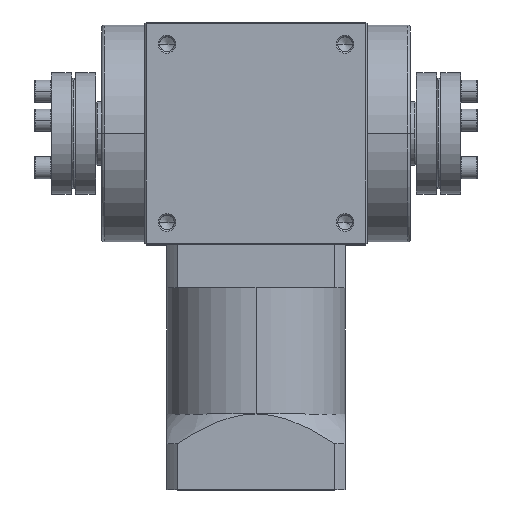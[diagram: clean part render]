
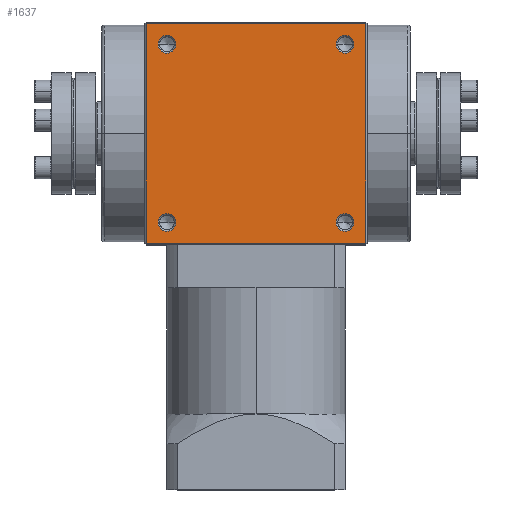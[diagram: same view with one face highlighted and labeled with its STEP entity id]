
A CAD part, top view. The second image highlights one B-rep face of the part: STEP entity #1637.
In plain terms, the highlighted planar face has unit normal (0, 0, 1).
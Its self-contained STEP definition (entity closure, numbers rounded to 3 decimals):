
#118 = CARTESIAN_POINT ( 'NONE',  ( -27., -30., 37.5 ) ) ;
#128 = VERTEX_POINT ( 'NONE', #3857 ) ;
#163 = DIRECTION ( 'NONE',  ( 0., 0., -1. ) ) ;
#191 = DIRECTION ( 'NONE',  ( -1., 0., 0. ) ) ;
#306 = FACE_BOUND ( 'NONE', #17073, .T. ) ;
#957 = EDGE_CURVE ( 'NONE', #17308, #10768, #7105, .T. ) ;
#998 = DIRECTION ( 'NONE',  ( 0., 0., -1. ) ) ;
#1101 = VECTOR ( 'NONE', #8029, 1000. ) ;
#1414 = EDGE_LOOP ( 'NONE', ( #13661, #3787, #15507, #18024 ) ) ;
#1416 = ORIENTED_EDGE ( 'NONE', *, *, #15583, .T. ) ;
#1529 = DIRECTION ( 'NONE',  ( 0., 0., -1. ) ) ;
#1637 = ADVANCED_FACE ( 'NONE', ( #3077, #306, #20614, #14119, #18394 ), #8315, .F. ) ;
#1813 = DIRECTION ( 'NONE',  ( 0., 0., -1. ) ) ;
#1861 = AXIS2_PLACEMENT_3D ( 'NONE', #12674, #3087, #12611 ) ;
#2168 = VECTOR ( 'NONE', #4085, 1000. ) ;
#2348 = VECTOR ( 'NONE', #10569, 1000. ) ;
#2482 = CARTESIAN_POINT ( 'NONE',  ( -37., 37., 37.5 ) ) ;
#2584 = CIRCLE ( 'NONE', #6284, 3. ) ;
#2636 = CARTESIAN_POINT ( 'NONE',  ( 37., 0., 37.5 ) ) ;
#2827 = ORIENTED_EDGE ( 'NONE', *, *, #7245, .T. ) ;
#2835 = LINE ( 'NONE', #20107, #2348 ) ;
#3054 = EDGE_CURVE ( 'NONE', #17659, #11904, #19574, .T. ) ;
#3077 = FACE_BOUND ( 'NONE', #8980, .T. ) ;
#3087 = DIRECTION ( 'NONE',  ( 0., 0., -1. ) ) ;
#3242 = EDGE_CURVE ( 'NONE', #9377, #13031, #12790, .T. ) ;
#3312 = AXIS2_PLACEMENT_3D ( 'NONE', #7941, #19014, #9676 ) ;
#3351 = EDGE_CURVE ( 'NONE', #128, #9398, #20051, .T. ) ;
#3379 = VERTEX_POINT ( 'NONE', #14391 ) ;
#3787 = ORIENTED_EDGE ( 'NONE', *, *, #17470, .T. ) ;
#3841 = CARTESIAN_POINT ( 'NONE',  ( 30., 30., 37.5 ) ) ;
#3857 = CARTESIAN_POINT ( 'NONE',  ( -27., 30., 37.5 ) ) ;
#4085 = DIRECTION ( 'NONE',  ( 0., -1., 0. ) ) ;
#4177 = LINE ( 'NONE', #13688, #2168 ) ;
#4505 = DIRECTION ( 'NONE',  ( 0., 0., -1. ) ) ;
#4882 = DIRECTION ( 'NONE',  ( 0., 0., -1. ) ) ;
#5383 = DIRECTION ( 'NONE',  ( 0., 0., -1. ) ) ;
#5793 = ORIENTED_EDGE ( 'NONE', *, *, #8344, .T. ) ;
#5945 = LINE ( 'NONE', #13663, #17748 ) ;
#6284 = AXIS2_PLACEMENT_3D ( 'NONE', #18844, #4505, #9245 ) ;
#6369 = CARTESIAN_POINT ( 'NONE',  ( -33., -30., 37.5 ) ) ;
#6424 = CARTESIAN_POINT ( 'NONE',  ( -37., -37., 37.5 ) ) ;
#6517 = DIRECTION ( 'NONE',  ( -1., 0., 0. ) ) ;
#6585 = ORIENTED_EDGE ( 'NONE', *, *, #3054, .T. ) ;
#6862 = DIRECTION ( 'NONE',  ( -1., 0., 0. ) ) ;
#7105 = LINE ( 'NONE', #2636, #1101 ) ;
#7245 = EDGE_CURVE ( 'NONE', #3379, #14685, #10543, .T. ) ;
#7502 = ORIENTED_EDGE ( 'NONE', *, *, #11675, .T. ) ;
#7941 = CARTESIAN_POINT ( 'NONE',  ( -30., 30., 37.5 ) ) ;
#7958 = CARTESIAN_POINT ( 'NONE',  ( 30., -30., 37.5 ) ) ;
#7981 = CIRCLE ( 'NONE', #12186, 3. ) ;
#8029 = DIRECTION ( 'NONE',  ( 0., 1., 0. ) ) ;
#8315 = PLANE ( 'NONE',  #10501 ) ;
#8344 = EDGE_CURVE ( 'NONE', #13031, #9377, #15049, .T. ) ;
#8455 = CARTESIAN_POINT ( 'NONE',  ( -33., 30., 37.5 ) ) ;
#8980 = EDGE_LOOP ( 'NONE', ( #2827, #11216 ) ) ;
#9245 = DIRECTION ( 'NONE',  ( -1., 0., 0. ) ) ;
#9377 = VERTEX_POINT ( 'NONE', #10271 ) ;
#9398 = VERTEX_POINT ( 'NONE', #8455 ) ;
#9676 = DIRECTION ( 'NONE',  ( -1., 0., 0. ) ) ;
#10271 = CARTESIAN_POINT ( 'NONE',  ( 33., 30., 37.5 ) ) ;
#10500 = DIRECTION ( 'NONE',  ( -1., 0., 0. ) ) ;
#10501 = AXIS2_PLACEMENT_3D ( 'NONE', #11258, #1813, #191 ) ;
#10539 = CARTESIAN_POINT ( 'NONE',  ( 37., -37., 37.5 ) ) ;
#10543 = CIRCLE ( 'NONE', #19293, 3. ) ;
#10569 = DIRECTION ( 'NONE',  ( -1., 0., 0. ) ) ;
#10768 = VERTEX_POINT ( 'NONE', #13906 ) ;
#10837 = ORIENTED_EDGE ( 'NONE', *, *, #3351, .T. ) ;
#11182 = VERTEX_POINT ( 'NONE', #2482 ) ;
#11216 = ORIENTED_EDGE ( 'NONE', *, *, #16921, .T. ) ;
#11258 = CARTESIAN_POINT ( 'NONE',  ( 0., 0., 37.5 ) ) ;
#11675 = EDGE_CURVE ( 'NONE', #11904, #17659, #20297, .T. ) ;
#11904 = VERTEX_POINT ( 'NONE', #118 ) ;
#12002 = CARTESIAN_POINT ( 'NONE',  ( 27., 30., 37.5 ) ) ;
#12186 = AXIS2_PLACEMENT_3D ( 'NONE', #7958, #1529, #12816 ) ;
#12611 = DIRECTION ( 'NONE',  ( -1., 0., 0. ) ) ;
#12665 = VERTEX_POINT ( 'NONE', #6424 ) ;
#12674 = CARTESIAN_POINT ( 'NONE',  ( 30., 30., 37.5 ) ) ;
#12790 = CIRCLE ( 'NONE', #14847, 3. ) ;
#12816 = DIRECTION ( 'NONE',  ( -1., 0., 0. ) ) ;
#12911 = AXIS2_PLACEMENT_3D ( 'NONE', #18634, #998, #10500 ) ;
#13031 = VERTEX_POINT ( 'NONE', #12002 ) ;
#13661 = ORIENTED_EDGE ( 'NONE', *, *, #13813, .T. ) ;
#13663 = CARTESIAN_POINT ( 'NONE',  ( 0., -37., 37.5 ) ) ;
#13688 = CARTESIAN_POINT ( 'NONE',  ( -37., 0., 37.5 ) ) ;
#13813 = EDGE_CURVE ( 'NONE', #11182, #12665, #4177, .T. ) ;
#13906 = CARTESIAN_POINT ( 'NONE',  ( 37., 37., 37.5 ) ) ;
#14119 = FACE_BOUND ( 'NONE', #16026, .T. ) ;
#14391 = CARTESIAN_POINT ( 'NONE',  ( 33., -30., 37.5 ) ) ;
#14685 = VERTEX_POINT ( 'NONE', #14705 ) ;
#14705 = CARTESIAN_POINT ( 'NONE',  ( 27., -30., 37.5 ) ) ;
#14847 = AXIS2_PLACEMENT_3D ( 'NONE', #3841, #5383, #6862 ) ;
#14894 = ORIENTED_EDGE ( 'NONE', *, *, #3242, .T. ) ;
#15049 = CIRCLE ( 'NONE', #1861, 3. ) ;
#15507 = ORIENTED_EDGE ( 'NONE', *, *, #957, .T. ) ;
#15521 = EDGE_CURVE ( 'NONE', #10768, #11182, #2835, .T. ) ;
#15583 = EDGE_CURVE ( 'NONE', #9398, #128, #2584, .T. ) ;
#16004 = DIRECTION ( 'NONE',  ( -1., 0., 0. ) ) ;
#16026 = EDGE_LOOP ( 'NONE', ( #10837, #1416 ) ) ;
#16921 = EDGE_CURVE ( 'NONE', #14685, #3379, #7981, .T. ) ;
#17073 = EDGE_LOOP ( 'NONE', ( #7502, #6585 ) ) ;
#17284 = EDGE_LOOP ( 'NONE', ( #14894, #5793 ) ) ;
#17308 = VERTEX_POINT ( 'NONE', #10539 ) ;
#17470 = EDGE_CURVE ( 'NONE', #12665, #17308, #5945, .T. ) ;
#17659 = VERTEX_POINT ( 'NONE', #6369 ) ;
#17748 = VECTOR ( 'NONE', #18301, 1000. ) ;
#18024 = ORIENTED_EDGE ( 'NONE', *, *, #15521, .T. ) ;
#18094 = AXIS2_PLACEMENT_3D ( 'NONE', #19247, #4882, #6517 ) ;
#18301 = DIRECTION ( 'NONE',  ( 1., 0., 0. ) ) ;
#18394 = FACE_OUTER_BOUND ( 'NONE', #1414, .T. ) ;
#18634 = CARTESIAN_POINT ( 'NONE',  ( -30., -30., 37.5 ) ) ;
#18844 = CARTESIAN_POINT ( 'NONE',  ( -30., 30., 37.5 ) ) ;
#19014 = DIRECTION ( 'NONE',  ( 0., 0., -1. ) ) ;
#19151 = CARTESIAN_POINT ( 'NONE',  ( 30., -30., 37.5 ) ) ;
#19247 = CARTESIAN_POINT ( 'NONE',  ( -30., -30., 37.5 ) ) ;
#19293 = AXIS2_PLACEMENT_3D ( 'NONE', #19151, #163, #16004 ) ;
#19574 = CIRCLE ( 'NONE', #18094, 3. ) ;
#20051 = CIRCLE ( 'NONE', #3312, 3. ) ;
#20107 = CARTESIAN_POINT ( 'NONE',  ( 0., 37., 37.5 ) ) ;
#20297 = CIRCLE ( 'NONE', #12911, 3. ) ;
#20614 = FACE_BOUND ( 'NONE', #17284, .T. ) ;
